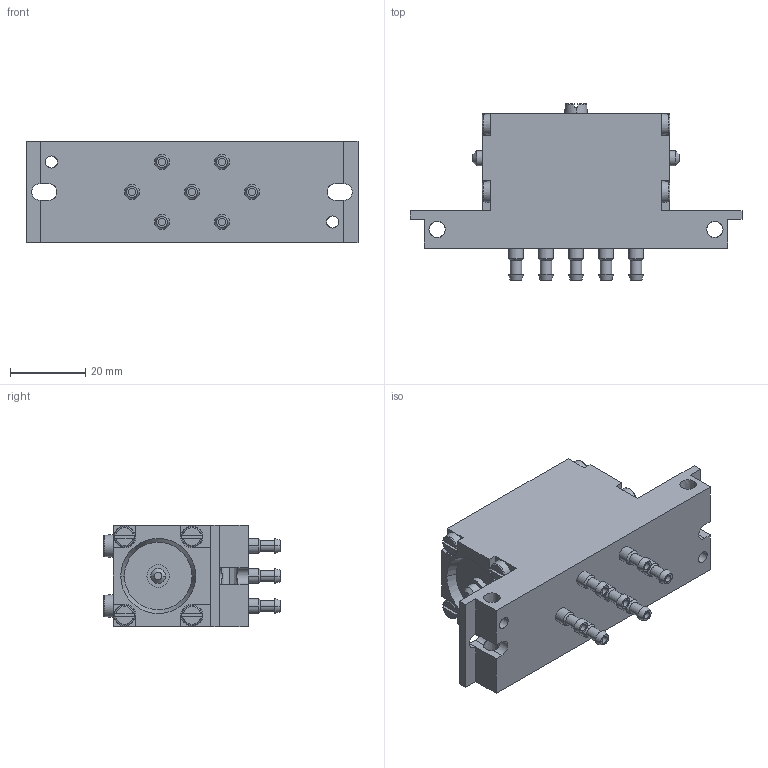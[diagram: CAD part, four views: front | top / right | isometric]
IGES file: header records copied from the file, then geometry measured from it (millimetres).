
Start section: Data from XPlus IGES,  Spatial Corp. Copyright (c) 1999-2004
Global section: file name: 4503 J-5-PK-3.igs; native system:  By Spatial Corp.; preprocessor: XPlus ACIS/IGES 3.0; author: Noname; organization: Noname; date: 20060920.113019; units: millimetre
Bounding box: 88.5 x 47 x 27 mm (x, y, z)
Surface area: 13408.3 mm2 (no closed solid volume)
Topology: 0 solids, 0 shells, 289 faces, 1472 edges, 1472 vertices
Faces by surface type: revolution 168, extrusion 121
